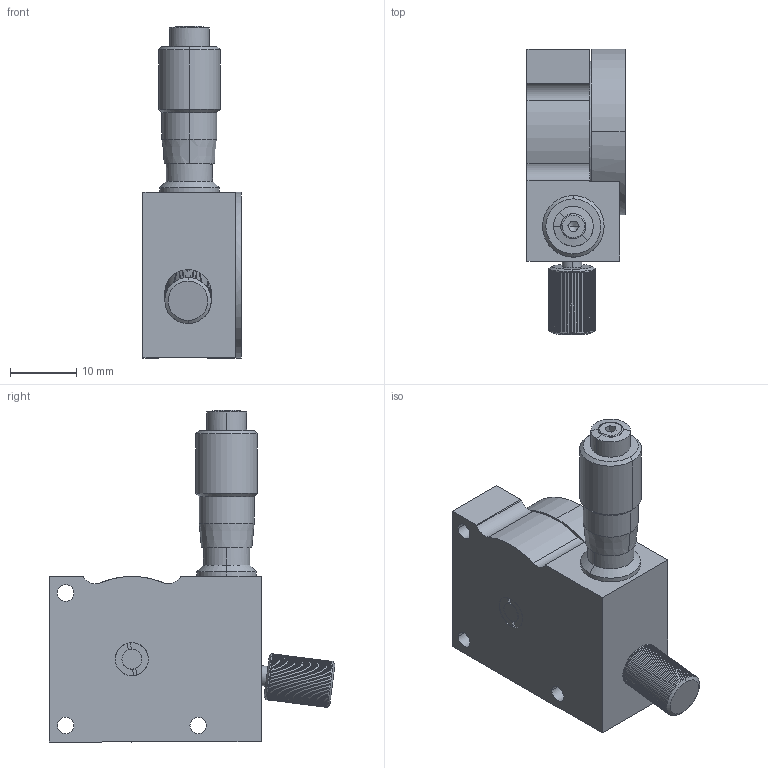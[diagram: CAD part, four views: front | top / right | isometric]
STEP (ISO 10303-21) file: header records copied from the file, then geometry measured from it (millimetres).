
FILE_DESCRIPTION (( 'STEP AP203' ), '1' );
FILE_NAME ('7R128-9S35-5.STEP', '2008-11-02T15:22:38', ( 'Darius' ), ( '' ), 'SwSTEP 2.0', 'SolidWorks 2003240', '' );
FILE_SCHEMA (( 'CONFIG_CONTROL_DESIGN' ));
Length unit declared in the file: millimetre
Products named in the file (1): 7R128-9S35-5
Bounding box: 14.8 x 43.13 x 50.12 mm (x, y, z)
Volume: 12390 mm3; surface area: 5641.6 mm2
Topology: 1 solids, 11 shells, 495 faces, 1231 edges, 767 vertices
Faces by surface type: plane 313, cylinder 118, bspline 33, cone 31
Entity records: 15393 total; most frequent: CARTESIAN_POINT 3737, ORIENTED_EDGE 2442, DIRECTION 2375, EDGE_CURVE 1221, AXIS2_PLACEMENT_3D 895, VERTEX_POINT 767, VECTOR 585, LINE 585
